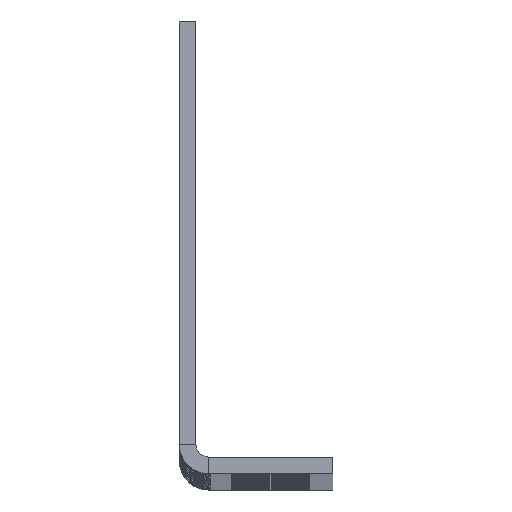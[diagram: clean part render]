
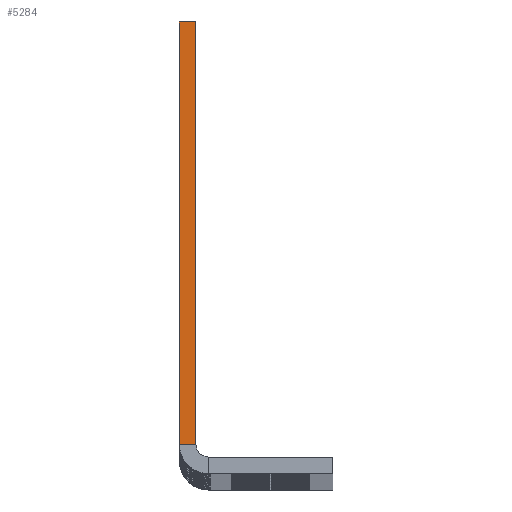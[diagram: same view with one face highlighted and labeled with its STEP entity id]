
A CAD part, top view. The second image highlights one B-rep face of the part: STEP entity #5284.
In plain terms, the highlighted planar face has unit normal (0, 0, 1).
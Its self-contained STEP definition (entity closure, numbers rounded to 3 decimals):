
#508 = DIRECTION ( 'NONE',  ( 0., 0., 1. ) ) ;
#5284 = ADVANCED_FACE ( 'NONE', ( #36978 ), #40982, .T. ) ;
#5405 = VECTOR ( 'NONE', #32114, 1000. ) ;
#5651 = ORIENTED_EDGE ( 'NONE', *, *, #22826, .T. ) ;
#8860 = EDGE_CURVE ( 'NONE', #38285, #30799, #46905, .T. ) ;
#10262 = CARTESIAN_POINT ( 'NONE',  ( 0., 3.5, 566.5 ) ) ;
#10718 = LINE ( 'NONE', #20127, #52700 ) ;
#11199 = CARTESIAN_POINT ( 'NONE',  ( 0., 3.5, 566.5 ) ) ;
#11360 = ORIENTED_EDGE ( 'NONE', *, *, #8860, .F. ) ;
#11721 = ORIENTED_EDGE ( 'NONE', *, *, #46361, .T. ) ;
#13645 = LINE ( 'NONE', #52421, #5405 ) ;
#15405 = VECTOR ( 'NONE', #34603, 1000. ) ;
#16831 = EDGE_CURVE ( 'NONE', #42647, #38285, #13645, .T. ) ;
#20127 = CARTESIAN_POINT ( 'NONE',  ( 0., 0., 566.5 ) ) ;
#20592 = CARTESIAN_POINT ( 'NONE',  ( 2., 54.5, 566.5 ) ) ;
#22826 = EDGE_CURVE ( 'NONE', #42647, #40901, #10718, .T. ) ;
#26197 = LINE ( 'NONE', #10262, #15405 ) ;
#26807 = ORIENTED_EDGE ( 'NONE', *, *, #16831, .F. ) ;
#27851 = EDGE_LOOP ( 'NONE', ( #5651, #11721, #11360, #26807 ) ) ;
#29069 = DIRECTION ( 'NONE',  ( 1., 0., 0. ) ) ;
#29876 = CARTESIAN_POINT ( 'NONE',  ( 0., 54.5, 566.5 ) ) ;
#30799 = VERTEX_POINT ( 'NONE', #35309 ) ;
#32114 = DIRECTION ( 'NONE',  ( 1., 0., 0. ) ) ;
#32328 = DIRECTION ( 'NONE',  ( 0., -1., 0. ) ) ;
#34603 = DIRECTION ( 'NONE',  ( 1., 0., 0. ) ) ;
#35309 = CARTESIAN_POINT ( 'NONE',  ( 2., 3.5, 566.5 ) ) ;
#36080 = VECTOR ( 'NONE', #32328, 1000. ) ;
#36464 = AXIS2_PLACEMENT_3D ( 'NONE', #37237, #508, #29069 ) ;
#36978 = FACE_OUTER_BOUND ( 'NONE', #27851, .T. ) ;
#37237 = CARTESIAN_POINT ( 'NONE',  ( 3.5, 2., 566.5 ) ) ;
#38285 = VERTEX_POINT ( 'NONE', #20592 ) ;
#40332 = CARTESIAN_POINT ( 'NONE',  ( 2., 0., 566.5 ) ) ;
#40901 = VERTEX_POINT ( 'NONE', #11199 ) ;
#40982 = PLANE ( 'NONE',  #36464 ) ;
#42647 = VERTEX_POINT ( 'NONE', #29876 ) ;
#46361 = EDGE_CURVE ( 'NONE', #40901, #30799, #26197, .T. ) ;
#46905 = LINE ( 'NONE', #40332, #36080 ) ;
#48590 = DIRECTION ( 'NONE',  ( 0., -1., 0. ) ) ;
#52421 = CARTESIAN_POINT ( 'NONE',  ( 0., 54.5, 566.5 ) ) ;
#52700 = VECTOR ( 'NONE', #48590, 1000. ) ;
